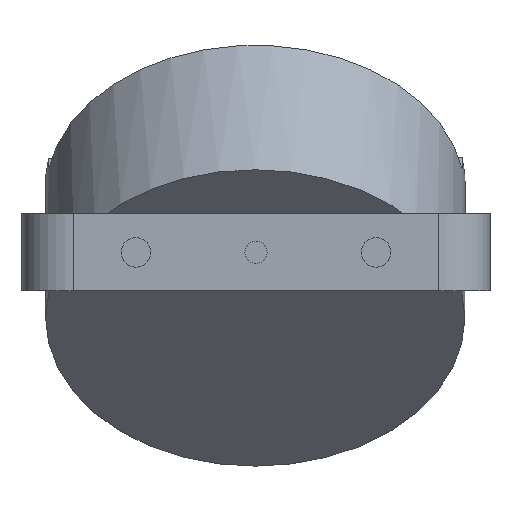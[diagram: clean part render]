
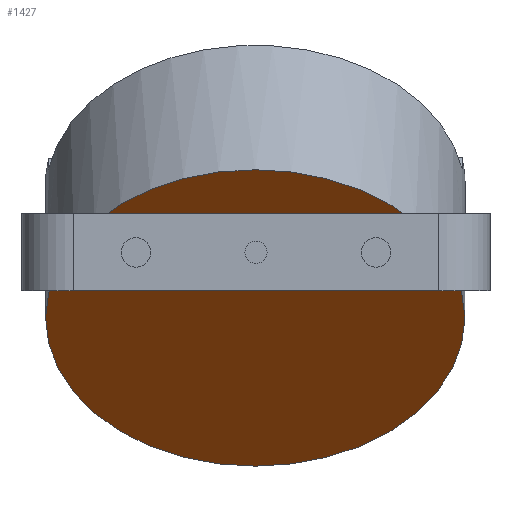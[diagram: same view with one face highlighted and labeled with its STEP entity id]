
A CAD part, front view. The second image highlights one B-rep face of the part: STEP entity #1427.
In plain terms, the highlighted planar face has unit normal (-0.001, -0.707, -0.708) as drawn and (-0.001, -1, -0.001) by its records, which use the part's own axes.
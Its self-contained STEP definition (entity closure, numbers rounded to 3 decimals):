
#59=FACE_BOUND('',#317,.T.);
#119=CIRCLE('',#1660,122.229);
#225=FACE_OUTER_BOUND('',#316,.T.);
#316=EDGE_LOOP('',(#1303));
#317=EDGE_LOOP('',(#1304,#1305,#1306,#1307));
#389=LINE('',#2332,#519);
#393=LINE('',#2340,#523);
#396=LINE('',#2346,#526);
#399=LINE('',#2351,#529);
#519=VECTOR('',#1930,10.);
#523=VECTOR('',#1936,10.);
#526=VECTOR('',#1941,10.);
#529=VECTOR('',#1946,10.);
#656=VERTEX_POINT('',#2330);
#657=VERTEX_POINT('',#2331);
#660=VERTEX_POINT('',#2339);
#662=VERTEX_POINT('',#2345);
#707=VERTEX_POINT('',#3262);
#828=EDGE_CURVE('',#656,#657,#389,.T.);
#832=EDGE_CURVE('',#657,#660,#393,.T.);
#835=EDGE_CURVE('',#660,#662,#396,.T.);
#838=EDGE_CURVE('',#662,#656,#399,.T.);
#900=EDGE_CURVE('',#707,#707,#119,.T.);
#1303=ORIENTED_EDGE('',*,*,#900,.T.);
#1304=ORIENTED_EDGE('',*,*,#828,.T.);
#1305=ORIENTED_EDGE('',*,*,#832,.T.);
#1306=ORIENTED_EDGE('',*,*,#835,.T.);
#1307=ORIENTED_EDGE('',*,*,#838,.T.);
#1352=PLANE('',#1667);
#1427=ADVANCED_FACE('',(#225,#59),#1352,.F.);
#1660=AXIS2_PLACEMENT_3D('',#3263,#2059,#2060);
#1667=AXIS2_PLACEMENT_3D('',#3940,#2079,#2080);
#1930=DIRECTION('',(0.,0.001,-1.));
#1936=DIRECTION('',(-1.,0.001,0.));
#1941=DIRECTION('',(0.,-0.001,1.));
#1946=DIRECTION('',(1.,-0.001,0.));
#2059=DIRECTION('center_axis',(-0.001,-1.,
-0.001));
#2060=DIRECTION('ref_axis',(-1.,0.001,0.));
#2079=DIRECTION('center_axis',(0.001,1.,0.001));
#2080=DIRECTION('ref_axis',(-1.,0.001,0.));
#2330=CARTESIAN_POINT('',(32.2,0.032,77.85));
#2331=CARTESIAN_POINT('',(32.2,0.048,48.45));
#2332=CARTESIAN_POINT('',(32.2,0.06,24.48));
#2339=CARTESIAN_POINT('',(-32.2,0.102,48.45));
#2340=CARTESIAN_POINT('',(-16.331,0.089,48.45));
#2345=CARTESIAN_POINT('',(-32.2,0.087,77.85));
#2346=CARTESIAN_POINT('',(-32.2,0.107,39.18));
#2351=CARTESIAN_POINT('',(15.869,0.046,77.85));
#3262=CARTESIAN_POINT('',(121.766,-0.003,0.51));
#3263=CARTESIAN_POINT('Origin',(-0.463,0.1,0.51));
#3940=CARTESIAN_POINT('Origin',(-0.463,0.1,0.51));
